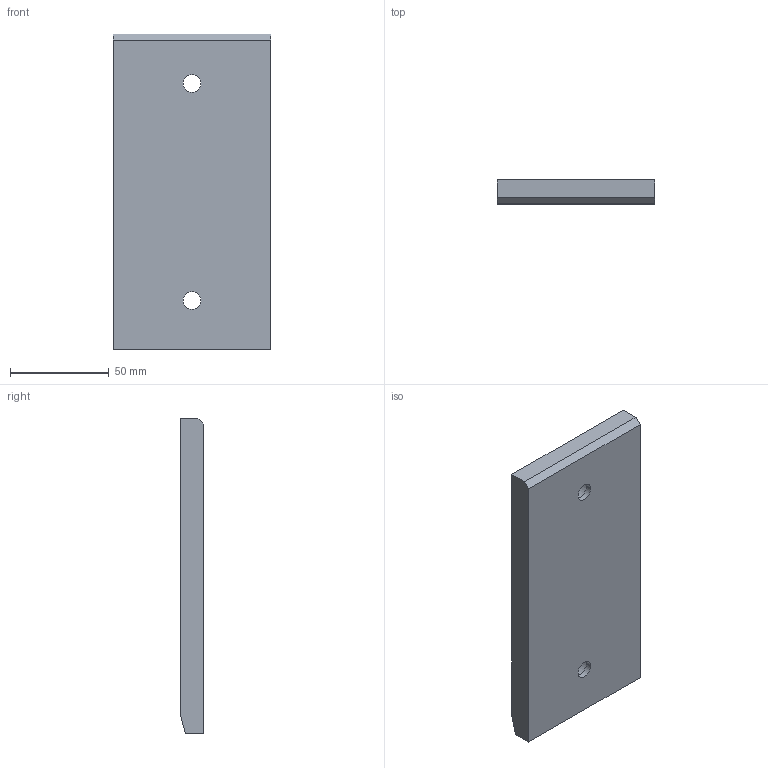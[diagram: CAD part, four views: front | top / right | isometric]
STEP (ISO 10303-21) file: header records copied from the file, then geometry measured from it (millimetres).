
FILE_DESCRIPTION (( 'STEP AP214' ), '1' );
FILE_NAME ('SW222-01-80x160.STEP', '2020-10-14T12:54:04', ( 'August' ), ( '' ), 'SwSTEP 2.0', 'SolidWorks 2018', '' );
FILE_SCHEMA (( 'AUTOMOTIVE_DESIGN' ));
Length unit declared in the file: millimetre
Products named in the file (1): SW222-01-80x160
Bounding box: 80 x 12 x 160 mm (x, y, z)
Volume: 129451 mm3; surface area: 41303.8 mm2
Topology: 1 solids, 1 shells, 191 faces, 389 edges, 258 vertices
Faces by surface type: cylinder 121, plane 66, cone 4
Entity records: 5432 total; most frequent: DIRECTION 1019, CARTESIAN_POINT 839, ORIENTED_EDGE 778, AXIS2_PLACEMENT_3D 438, EDGE_CURVE 389, VERTEX_POINT 258, EDGE_LOOP 253, CIRCLE 246
